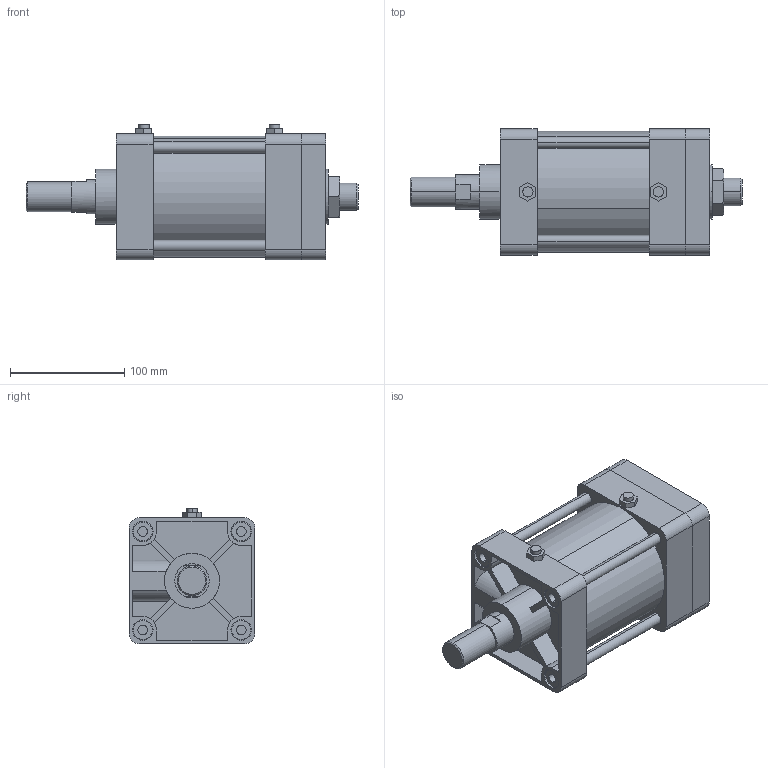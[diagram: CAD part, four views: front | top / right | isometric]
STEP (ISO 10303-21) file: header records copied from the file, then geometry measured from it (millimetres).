
FILE_DESCRIPTION (( 'STEP AP203' ), '1' );
FILE_NAME ('KGA2-100#-50-N.STEP', '2016-04-14T07:46:37', ( '' ), ( '' ), 'SwSTEP 2.0', 'SolidWorks 2014', '' );
FILE_SCHEMA (( 'CONFIG_CONTROL_DESIGN' ));
Length unit declared in the file: millimetre
Products named in the file (7): KGA2-100#-50-N; KG2-100-After; KGLH2-100-50; KGA2-100-After
Assembly tree (16 placements, depth 2):
  KGA2-100#-50-N
    KG2-100-After
    KGLH2-100-50
    (unnamed)
    (unnamed)  x4
    (unnamed)  x8
    KGA2-100-After
Bounding box: 290 x 110 x 118.3 mm (x, y, z)
Volume: 1761633.7 mm3; surface area: 243583.1 mm2
Topology: 16 solids, 16 shells, 344 faces, 811 edges, 518 vertices
Faces by surface type: plane 147, cylinder 131, torus 38, cone 28
Entity records: 8741 total; most frequent: CARTESIAN_POINT 1522, DIRECTION 1373, ORIENTED_EDGE 1242, EDGE_CURVE 621, AXIS2_PLACEMENT_3D 513, VERTEX_POINT 408, LINE 347, VECTOR 347
